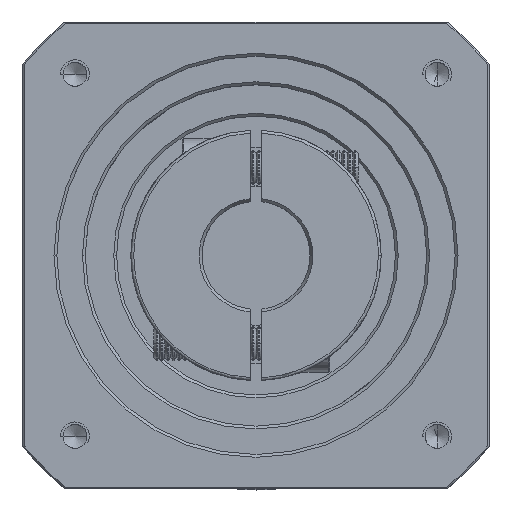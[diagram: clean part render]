
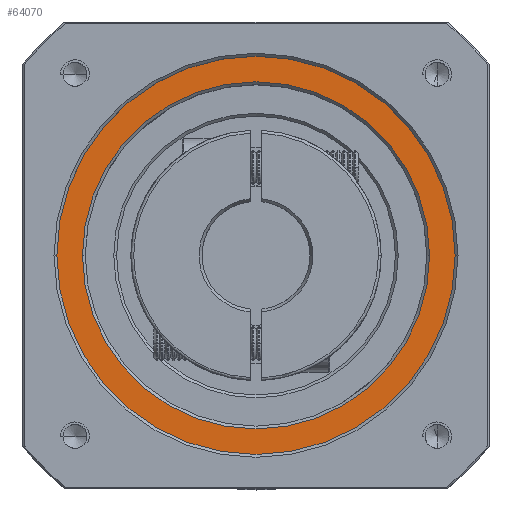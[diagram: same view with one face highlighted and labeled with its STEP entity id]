
A CAD part, top view. The second image highlights one B-rep face of the part: STEP entity #64070.
In plain terms, the highlighted planar face has unit normal (0, 0, 1).
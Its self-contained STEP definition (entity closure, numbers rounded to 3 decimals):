
#2322 = ORIENTED_EDGE ( 'NONE', *, *, #126044, .T. ) ;
#3584 = DIRECTION ( 'NONE',  ( 1., 0., 0. ) ) ;
#8639 = DIRECTION ( 'NONE',  ( 0., 0., -1. ) ) ;
#8908 = AXIS2_PLACEMENT_3D ( 'NONE', #12830, #81517, #22755 ) ;
#12830 = CARTESIAN_POINT ( 'NONE',  ( -86.36, 19.655, 17.325 ) ) ;
#14347 = CARTESIAN_POINT ( 'NONE',  ( -86.36, 19.655, 17.325 ) ) ;
#22755 = DIRECTION ( 'NONE',  ( 1., 0., 0. ) ) ;
#23021 = FACE_OUTER_BOUND ( 'NONE', #93260, .T. ) ;
#23851 = CARTESIAN_POINT ( 'NONE',  ( -116.86, 19.655, 17.325 ) ) ;
#24259 = DIRECTION ( 'NONE',  ( 1., 0., 0. ) ) ;
#27036 = AXIS2_PLACEMENT_3D ( 'NONE', #67423, #8639, #3584 ) ;
#28323 = CIRCLE ( 'NONE', #58235, 35. ) ;
#30042 = CARTESIAN_POINT ( 'NONE',  ( -86.36, 19.655, 17.325 ) ) ;
#32235 = CARTESIAN_POINT ( 'NONE',  ( -86.36, 19.655, 17.325 ) ) ;
#33547 = CIRCLE ( 'NONE', #27036, 30.5 ) ;
#39154 = ORIENTED_EDGE ( 'NONE', *, *, #112011, .T. ) ;
#39856 = DIRECTION ( 'NONE',  ( 1., 0., 0. ) ) ;
#40086 = AXIS2_PLACEMENT_3D ( 'NONE', #14347, #83057, #24259 ) ;
#40739 = ORIENTED_EDGE ( 'NONE', *, *, #67228, .T. ) ;
#42075 = DIRECTION ( 'NONE',  ( 1., 0., 0. ) ) ;
#43120 = PLANE ( 'NONE',  #40086 ) ;
#45981 = VERTEX_POINT ( 'NONE', #59243 ) ;
#54518 = AXIS2_PLACEMENT_3D ( 'NONE', #30042, #98669, #39856 ) ;
#58235 = AXIS2_PLACEMENT_3D ( 'NONE', #32235, #100865, #42075 ) ;
#59243 = CARTESIAN_POINT ( 'NONE',  ( -55.86, 19.655, 17.325 ) ) ;
#63603 = CIRCLE ( 'NONE', #8908, 35. ) ;
#64070 = ADVANCED_FACE ( 'NONE', ( #23021, #72146 ), #43120, .T. ) ;
#67228 = EDGE_CURVE ( 'NONE', #101922, #45981, #33547, .T. ) ;
#67423 = CARTESIAN_POINT ( 'NONE',  ( -86.36, 19.655, 17.325 ) ) ;
#72146 = FACE_BOUND ( 'NONE', #79431, .T. ) ;
#79431 = EDGE_LOOP ( 'NONE', ( #123395, #40739 ) ) ;
#81378 = EDGE_CURVE ( 'NONE', #45981, #101922, #100468, .T. ) ;
#81517 = DIRECTION ( 'NONE',  ( 0., 0., 1. ) ) ;
#83057 = DIRECTION ( 'NONE',  ( 0., 0., 1. ) ) ;
#90027 = VERTEX_POINT ( 'NONE', #90554 ) ;
#90554 = CARTESIAN_POINT ( 'NONE',  ( -51.36, 19.655, 17.325 ) ) ;
#93260 = EDGE_LOOP ( 'NONE', ( #2322, #39154 ) ) ;
#98669 = DIRECTION ( 'NONE',  ( 0., 0., -1. ) ) ;
#100468 = CIRCLE ( 'NONE', #54518, 30.5 ) ;
#100865 = DIRECTION ( 'NONE',  ( 0., 0., 1. ) ) ;
#101922 = VERTEX_POINT ( 'NONE', #23851 ) ;
#109451 = VERTEX_POINT ( 'NONE', #116489 ) ;
#112011 = EDGE_CURVE ( 'NONE', #109451, #90027, #28323, .T. ) ;
#116489 = CARTESIAN_POINT ( 'NONE',  ( -121.36, 19.655, 17.325 ) ) ;
#123395 = ORIENTED_EDGE ( 'NONE', *, *, #81378, .T. ) ;
#126044 = EDGE_CURVE ( 'NONE', #90027, #109451, #63603, .T. ) ;
